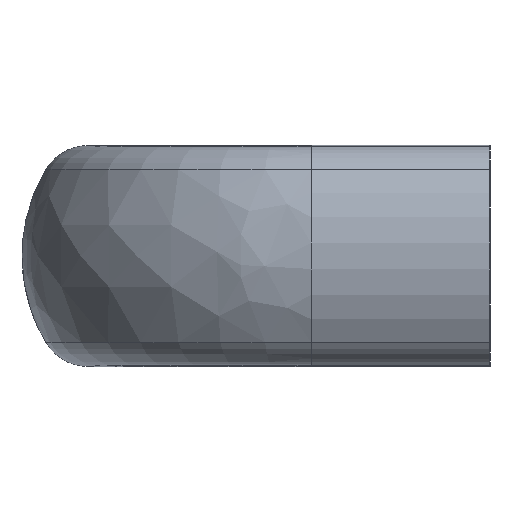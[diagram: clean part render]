
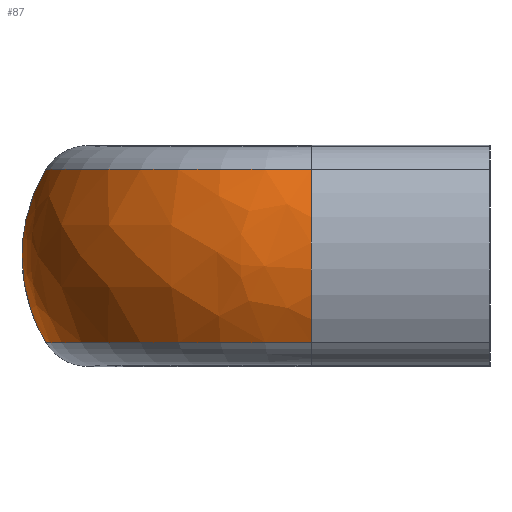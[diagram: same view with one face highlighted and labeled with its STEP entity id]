
A CAD part, left-side view. The second image highlights one B-rep face of the part: STEP entity #87.
In plain terms, the highlighted free-form (B-spline) face has degree [3, 3] with [4, 4] control points.
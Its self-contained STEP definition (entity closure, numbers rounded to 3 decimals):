
#87 = ADVANCED_FACE( '', ( #155 ), #156, .T. );
#155 = FACE_OUTER_BOUND( '', #265, .T. );
#156 = ( BOUNDED_SURFACE(  )B_SPLINE_SURFACE( 3, 3, ( ( #268, #269, #270, #271 ), ( #272, #273, #274, #275 ), ( #276, #277, #278, #279 ), ( #280, #281, #282, #283 ) ), .UNSPECIFIED., .F., .F., .F. )B_SPLINE_SURFACE_WITH_KNOTS( ( 4, 4 ), ( 4, 4 ), ( 1.571, 3.142 ), ( -0.537, 0.537 ), .UNSPECIFIED. )GEOMETRIC_REPRESENTATION_ITEM(  )RATIONAL_B_SPLINE_SURFACE( ( ( 1., 0.805, 0.805, 1. ), ( 0.906, 0.729, 0.729, 0.906 ), ( 0.906, 0.729, 0.729, 0.906 ), ( 1., 0.805, 0.805, 1. ) ) )REPRESENTATION_ITEM( '' )SURFACE(  ) );
#265 = EDGE_LOOP( '', ( #477, #478, #479, #480, #481 ) );
#268 = CARTESIAN_POINT( '', ( -34.5, 52.189, 10.177 ) );
#269 = CARTESIAN_POINT( '', ( -52.77, 52.189, 10.177 ) );
#270 = CARTESIAN_POINT( '', ( -65.689, 39.27, 10.177 ) );
#271 = CARTESIAN_POINT( '', ( -65.689, 21., 10.177 ) );
#272 = CARTESIAN_POINT( '', ( -34.5, 56.02, 3.744 ) );
#273 = CARTESIAN_POINT( '', ( -55.014, 56.02, 3.744 ) );
#274 = CARTESIAN_POINT( '', ( -69.52, 41.514, 3.744 ) );
#275 = CARTESIAN_POINT( '', ( -69.52, 21., 3.744 ) );
#276 = CARTESIAN_POINT( '', ( -34.5, 56.02, -3.744 ) );
#277 = CARTESIAN_POINT( '', ( -55.014, 56.02, -3.744 ) );
#278 = CARTESIAN_POINT( '', ( -69.52, 41.514, -3.744 ) );
#279 = CARTESIAN_POINT( '', ( -69.52, 21., -3.744 ) );
#280 = CARTESIAN_POINT( '', ( -34.5, 52.189, -10.177 ) );
#281 = CARTESIAN_POINT( '', ( -52.77, 52.189, -10.177 ) );
#282 = CARTESIAN_POINT( '', ( -65.689, 39.27, -10.177 ) );
#283 = CARTESIAN_POINT( '', ( -65.689, 21., -10.177 ) );
#477 = ORIENTED_EDGE( '', *, *, #834, .T. );
#478 = ORIENTED_EDGE( '', *, *, #835, .F. );
#479 = ORIENTED_EDGE( '', *, *, #836, .F. );
#480 = ORIENTED_EDGE( '', *, *, #806, .T. );
#481 = ORIENTED_EDGE( '', *, *, #805, .T. );
#805 = EDGE_CURVE( '', #941, #942, #943, .T. );
#806 = EDGE_CURVE( '', #944, #941, #945, .T. );
#834 = EDGE_CURVE( '', #942, #994, #996, .T. );
#835 = EDGE_CURVE( '', #997, #994, #998, .T. );
#836 = EDGE_CURVE( '', #944, #997, #999, .T. );
#941 = VERTEX_POINT( '', #1149 );
#942 = VERTEX_POINT( '', #1150 );
#943 = B_SPLINE_CURVE_WITH_KNOTS( '', 3, ( #1151, #1152, #1153, #1154, #1155, #1156 ), .UNSPECIFIED., .F., .F., ( 4, 2, 4 ), ( 0., 0.5, 1. ), .UNSPECIFIED. );
#944 = VERTEX_POINT( '', #1157 );
#945 = B_SPLINE_CURVE_WITH_KNOTS( '', 3, ( #1158, #1159, #1160, #1161, #1162, #1163 ), .UNSPECIFIED., .F., .F., ( 4, 2, 4 ), ( 0., 0.5, 1. ), .UNSPECIFIED. );
#994 = VERTEX_POINT( '', #1246 );
#996 = CIRCLE( '', #1248, 31.189 );
#997 = VERTEX_POINT( '', #1249 );
#998 = CIRCLE( '', #1250, 19.889 );
#999 = CIRCLE( '', #1251, 31.189 );
#1149 = CARTESIAN_POINT( '', ( -34.5, 54.995, 0.043 ) );
#1150 = CARTESIAN_POINT( '', ( -34.5, 52.189, -10.184 ) );
#1151 = CARTESIAN_POINT( '', ( -34.5, 54.99, 0.043 ) );
#1152 = CARTESIAN_POINT( '', ( -34.5, 54.994, -1.745 ) );
#1153 = CARTESIAN_POINT( '', ( -34.5, 54.755, -3.533 ) );
#1154 = CARTESIAN_POINT( '', ( -34.5, 53.81, -6.981 ) );
#1155 = CARTESIAN_POINT( '', ( -34.5, 53.104, -8.641 ) );
#1156 = CARTESIAN_POINT( '', ( -34.5, 52.189, -10.177 ) );
#1157 = CARTESIAN_POINT( '', ( -34.5, 52.188, 10.185 ) );
#1158 = CARTESIAN_POINT( '', ( -34.5, 52.189, 10.177 ) );
#1159 = CARTESIAN_POINT( '', ( -34.5, 53.097, 8.653 ) );
#1160 = CARTESIAN_POINT( '', ( -34.5, 53.799, 7.008 ) );
#1161 = CARTESIAN_POINT( '', ( -34.5, 54.744, 3.589 ) );
#1162 = CARTESIAN_POINT( '', ( -34.5, 54.986, 1.816 ) );
#1163 = CARTESIAN_POINT( '', ( -34.5, 54.99, 0.043 ) );
#1246 = CARTESIAN_POINT( '', ( -65.689, 21., -10.177 ) );
#1248 = AXIS2_PLACEMENT_3D( '', #1481, #1482, #1483 );
#1249 = CARTESIAN_POINT( '', ( -65.689, 21., 10.177 ) );
#1250 = AXIS2_PLACEMENT_3D( '', #1484, #1485, #1486 );
#1251 = AXIS2_PLACEMENT_3D( '', #1487, #1488, #1489 );
#1481 = CARTESIAN_POINT( '', ( -34.5, 21., -10.177 ) );
#1482 = DIRECTION( '', ( 0., 0., 1. ) );
#1483 = DIRECTION( '', ( 1., 0., 0. ) );
#1484 = CARTESIAN_POINT( '', ( -48.601, 21., 0. ) );
#1485 = DIRECTION( '', ( 0., -1., 0. ) );
#1486 = DIRECTION( '', ( 0., 0., 1. ) );
#1487 = CARTESIAN_POINT( '', ( -34.5, 21., 10.177 ) );
#1488 = DIRECTION( '', ( 0., 0., 1. ) );
#1489 = DIRECTION( '', ( 1., 0., 0. ) );
